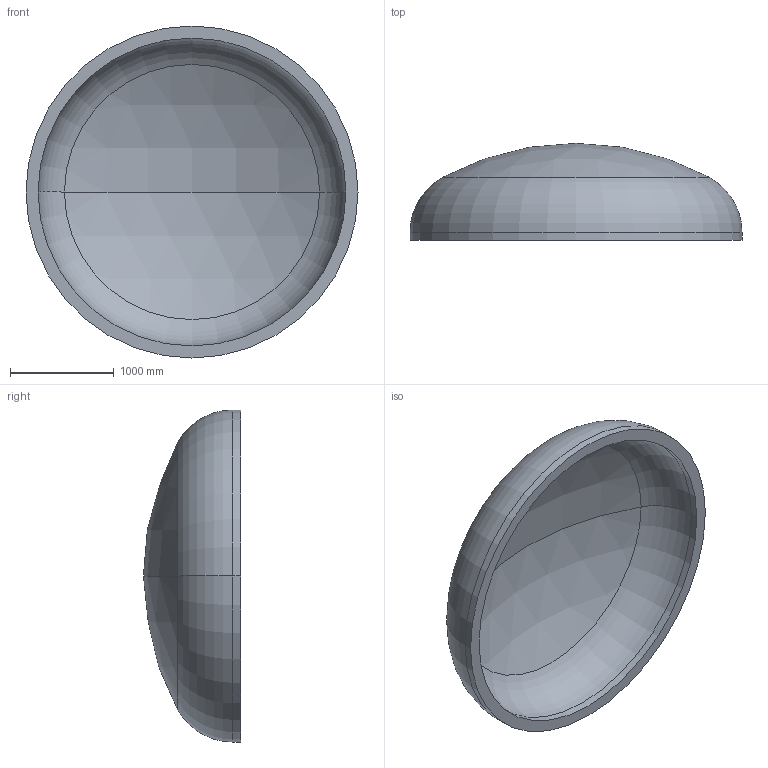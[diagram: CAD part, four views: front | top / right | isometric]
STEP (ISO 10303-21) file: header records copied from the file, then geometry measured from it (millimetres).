
FILE_DESCRIPTION (( 'STEP AP203' ), '1' );
FILE_NAME ('DIN 28013 Korbbogenform_-_Boden DIN 28013 - 3200 x 75 - I - s=116.step', '2016-07-01T19:03:26', ( '' ), ( '' ), 'SwSTEP 2.0', 'SolidWorks 2013', '' );
FILE_SCHEMA (( 'CONFIG_CONTROL_DESIGN' ));
Length unit declared in the file: millimetre
Products named in the file (1): DIN 28013 Korbbogenform_-_Boden DIN 28013 - 3200 x 75 - I - s=116
Bounding box: 3200 x 935.27 x 3200 mm (x, y, z)
Volume: 1315502207.2 mm3; surface area: 23833133.3 mm2
Topology: 1 solids, 1 shells, 13 faces, 24 edges, 14 vertices
Faces by surface type: torus 4, cylinder 4, sphere 4, plane 1
Entity records: 407 total; most frequent: DIRECTION 72, CARTESIAN_POINT 52, ORIENTED_EDGE 48, AXIS2_PLACEMENT_3D 34, EDGE_CURVE 24, CIRCLE 20, VERTEX_POINT 14, EDGE_LOOP 14
